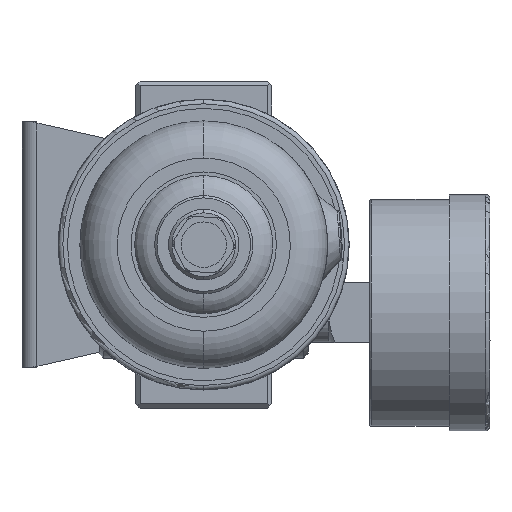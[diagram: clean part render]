
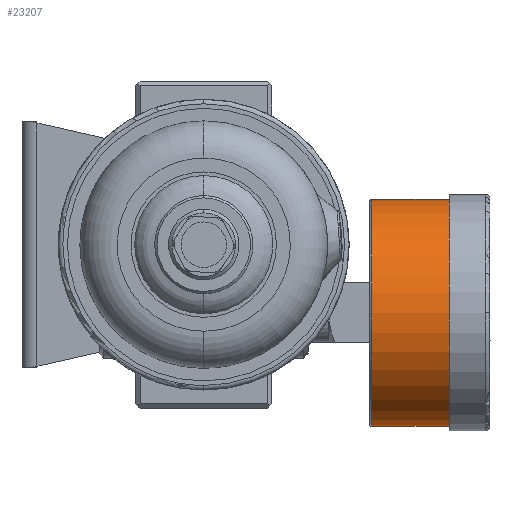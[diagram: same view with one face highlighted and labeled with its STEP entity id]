
A CAD part, front view. The second image highlights one B-rep face of the part: STEP entity #23207.
In plain terms, the highlighted cylindrical face has radius 25 mm (diameter 50 mm), a partial arc.
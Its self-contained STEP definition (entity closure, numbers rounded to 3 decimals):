
#212 = EDGE_CURVE ( 'NONE', #23022, #5583, #7809, .T. ) ;
#226 = VECTOR ( 'NONE', #42183, 1000. ) ;
#522 = VERTEX_POINT ( 'NONE', #39626 ) ;
#3508 = LINE ( 'NONE', #22188, #42161 ) ;
#4628 = AXIS2_PLACEMENT_3D ( 'NONE', #34752, #27137, #15299 ) ;
#5583 = VERTEX_POINT ( 'NONE', #6526 ) ;
#6415 = CYLINDRICAL_SURFACE ( 'NONE', #32503, 25. ) ;
#6526 = CARTESIAN_POINT ( 'NONE',  ( 37., 0., 10. ) ) ;
#7809 = CIRCLE ( 'NONE', #11624, 25. ) ;
#8302 = ORIENTED_EDGE ( 'NONE', *, *, #31123, .T. ) ;
#8400 = ORIENTED_EDGE ( 'NONE', *, *, #21839, .T. ) ;
#10923 = CARTESIAN_POINT ( 'NONE',  ( 37., 0., -15. ) ) ;
#11377 = ORIENTED_EDGE ( 'NONE', *, *, #212, .F. ) ;
#11624 = AXIS2_PLACEMENT_3D ( 'NONE', #10923, #19031, #45495 ) ;
#15299 = DIRECTION ( 'NONE',  ( 0., 0., -1. ) ) ;
#17060 = VERTEX_POINT ( 'NONE', #27459 ) ;
#19031 = DIRECTION ( 'NONE',  ( -1., 0., 0. ) ) ;
#21839 = EDGE_CURVE ( 'NONE', #522, #17060, #41070, .T. ) ;
#22083 = LINE ( 'NONE', #23290, #226 ) ;
#22188 = CARTESIAN_POINT ( 'NONE',  ( 45.5, 0., 10. ) ) ;
#23022 = VERTEX_POINT ( 'NONE', #47168 ) ;
#23207 = ADVANCED_FACE ( 'NONE', ( #42016 ), #6415, .T. ) ;
#23290 = CARTESIAN_POINT ( 'NONE',  ( 45.5, 0., -40. ) ) ;
#25920 = DIRECTION ( 'NONE',  ( 1., 0., 0. ) ) ;
#27137 = DIRECTION ( 'NONE',  ( -1., 0., 0. ) ) ;
#27459 = CARTESIAN_POINT ( 'NONE',  ( 54., 0., 10. ) ) ;
#27822 = ORIENTED_EDGE ( 'NONE', *, *, #37842, .F. ) ;
#28920 = EDGE_LOOP ( 'NONE', ( #27822, #11377, #8302, #8400 ) ) ;
#31123 = EDGE_CURVE ( 'NONE', #23022, #522, #22083, .T. ) ;
#32503 = AXIS2_PLACEMENT_3D ( 'NONE', #32518, #36428, #32698 ) ;
#32518 = CARTESIAN_POINT ( 'NONE',  ( 45.5, 0., -15. ) ) ;
#32698 = DIRECTION ( 'NONE',  ( 0., 0., -1. ) ) ;
#34752 = CARTESIAN_POINT ( 'NONE',  ( 54., 0., -15. ) ) ;
#36428 = DIRECTION ( 'NONE',  ( 1., 0., 0. ) ) ;
#37842 = EDGE_CURVE ( 'NONE', #5583, #17060, #3508, .T. ) ;
#39626 = CARTESIAN_POINT ( 'NONE',  ( 54., 0., -40. ) ) ;
#41070 = CIRCLE ( 'NONE', #4628, 25. ) ;
#42016 = FACE_OUTER_BOUND ( 'NONE', #28920, .T. ) ;
#42161 = VECTOR ( 'NONE', #25920, 1000. ) ;
#42183 = DIRECTION ( 'NONE',  ( 1., 0., 0. ) ) ;
#45495 = DIRECTION ( 'NONE',  ( 0., -1., 0. ) ) ;
#47168 = CARTESIAN_POINT ( 'NONE',  ( 37., 0., -40. ) ) ;
